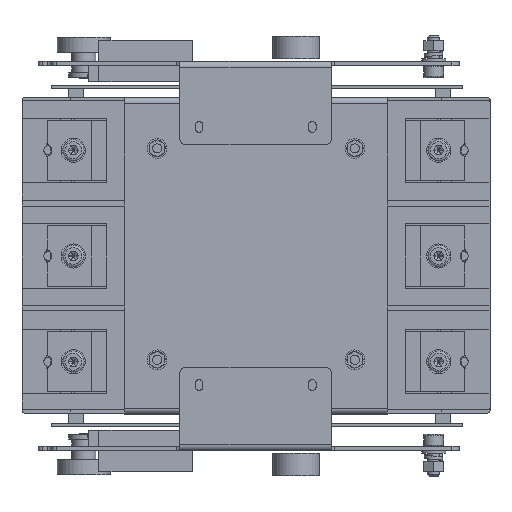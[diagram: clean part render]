
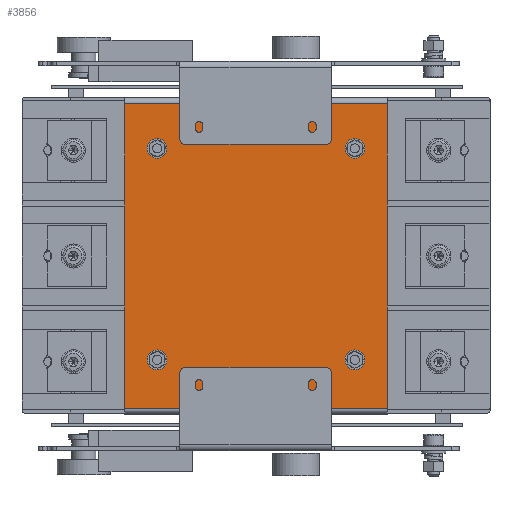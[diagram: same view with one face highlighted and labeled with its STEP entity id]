
A CAD part, front view. The second image highlights one B-rep face of the part: STEP entity #3856.
In plain terms, the highlighted planar face has unit normal (0, -1, 0).
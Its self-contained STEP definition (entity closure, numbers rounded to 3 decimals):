
#3856=ADVANCED_FACE('',(#7117,#7118,#7119,#7120,#7121),#5907,.F.);
#5907=PLANE('',#36532);
#7117=FACE_BOUND('',#8339,.T.);
#7118=FACE_BOUND('',#8340,.T.);
#7119=FACE_BOUND('',#8341,.T.);
#7120=FACE_BOUND('',#8342,.T.);
#7121=FACE_BOUND('',#8343,.T.);
#8339=EDGE_LOOP('',(#17367));
#8340=EDGE_LOOP('',(#17368));
#8341=EDGE_LOOP('',(#17369));
#8342=EDGE_LOOP('',(#17370));
#8343=EDGE_LOOP('',(#17371,#17372,#17373,#17374));
#11089=LINE('',#49625,#14067);
#11096=LINE('',#49649,#14074);
#11107=LINE('',#49692,#14085);
#11108=LINE('',#49693,#14086);
#14067=VECTOR('',#39811,1.);
#14074=VECTOR('',#39832,1.);
#14085=VECTOR('',#39875,1.);
#14086=VECTOR('',#39876,1.);
#17367=ORIENTED_EDGE('',*,*,#30309,.T.);
#17368=ORIENTED_EDGE('',*,*,#30310,.T.);
#17369=ORIENTED_EDGE('',*,*,#30311,.T.);
#17370=ORIENTED_EDGE('',*,*,#30312,.T.);
#17371=ORIENTED_EDGE('',*,*,#30278,.F.);
#17372=ORIENTED_EDGE('',*,*,#30313,.T.);
#17373=ORIENTED_EDGE('',*,*,#30290,.F.);
#17374=ORIENTED_EDGE('',*,*,#30314,.F.);
#26854=VERTEX_POINT('',#49624);
#26855=VERTEX_POINT('',#49626);
#26864=VERTEX_POINT('',#49648);
#26865=VERTEX_POINT('',#49650);
#26877=VERTEX_POINT('',#49685);
#26878=VERTEX_POINT('',#49687);
#26879=VERTEX_POINT('',#49689);
#26880=VERTEX_POINT('',#49691);
#30278=EDGE_CURVE('',#26854,#26855,#11089,.T.);
#30290=EDGE_CURVE('',#26864,#26865,#11096,.T.);
#30309=EDGE_CURVE('',#26877,#26877,#35049,.T.);
#30310=EDGE_CURVE('',#26878,#26878,#35050,.T.);
#30311=EDGE_CURVE('',#26879,#26879,#35051,.T.);
#30312=EDGE_CURVE('',#26880,#26880,#35052,.T.);
#30313=EDGE_CURVE('',#26854,#26865,#11107,.T.);
#30314=EDGE_CURVE('',#26855,#26864,#11108,.T.);
#35049=CIRCLE('',#36528,3.);
#35050=CIRCLE('',#36529,3.);
#35051=CIRCLE('',#36530,3.);
#35052=CIRCLE('',#36531,3.);
#36528=AXIS2_PLACEMENT_3D('',#49684,#39867,#39868);
#36529=AXIS2_PLACEMENT_3D('',#49686,#39869,#39870);
#36530=AXIS2_PLACEMENT_3D('',#49688,#39871,#39872);
#36531=AXIS2_PLACEMENT_3D('',#49690,#39873,#39874);
#36532=AXIS2_PLACEMENT_3D('',#49694,#39877,#39878);
#39811=DIRECTION('',(0.,0.,-1.));
#39832=DIRECTION('',(0.,0.,1.));
#39867=DIRECTION('',(0.,1.,0.));
#39868=DIRECTION('',(0.,0.,1.));
#39869=DIRECTION('',(0.,1.,0.));
#39870=DIRECTION('',(0.,0.,1.));
#39871=DIRECTION('',(0.,1.,0.));
#39872=DIRECTION('',(0.,0.,1.));
#39873=DIRECTION('',(0.,1.,0.));
#39874=DIRECTION('',(0.,0.,1.));
#39875=DIRECTION('',(-1.,0.,0.));
#39876=DIRECTION('',(-1.,0.,0.));
#39877=DIRECTION('',(0.,1.,0.));
#39878=DIRECTION('',(1.,0.,0.));
#49624=CARTESIAN_POINT('',(1586.791,-151.876,190.2));
#49625=CARTESIAN_POINT('',(1586.791,-151.876,191.7));
#49626=CARTESIAN_POINT('',(1586.791,-151.876,-11.8));
#49648=CARTESIAN_POINT('',(1412.791,-151.876,-11.8));
#49649=CARTESIAN_POINT('',(1412.791,-151.876,191.7));
#49650=CARTESIAN_POINT('',(1412.791,-151.876,190.2));
#49684=CARTESIAN_POINT('',(1434.291,-151.876,160.45));
#49685=CARTESIAN_POINT('',(1434.291,-151.876,163.45));
#49686=CARTESIAN_POINT('',(1434.291,-151.876,20.45));
#49687=CARTESIAN_POINT('',(1434.291,-151.876,23.45));
#49688=CARTESIAN_POINT('',(1565.291,-151.876,160.45));
#49689=CARTESIAN_POINT('',(1565.291,-151.876,163.45));
#49690=CARTESIAN_POINT('',(1565.291,-151.876,20.45));
#49691=CARTESIAN_POINT('',(1565.291,-151.876,23.45));
#49692=CARTESIAN_POINT('',(1631.797,-151.876,190.2));
#49693=CARTESIAN_POINT('',(1631.797,-151.876,-11.8));
#49694=CARTESIAN_POINT('',(1409.291,-151.876,191.7));
